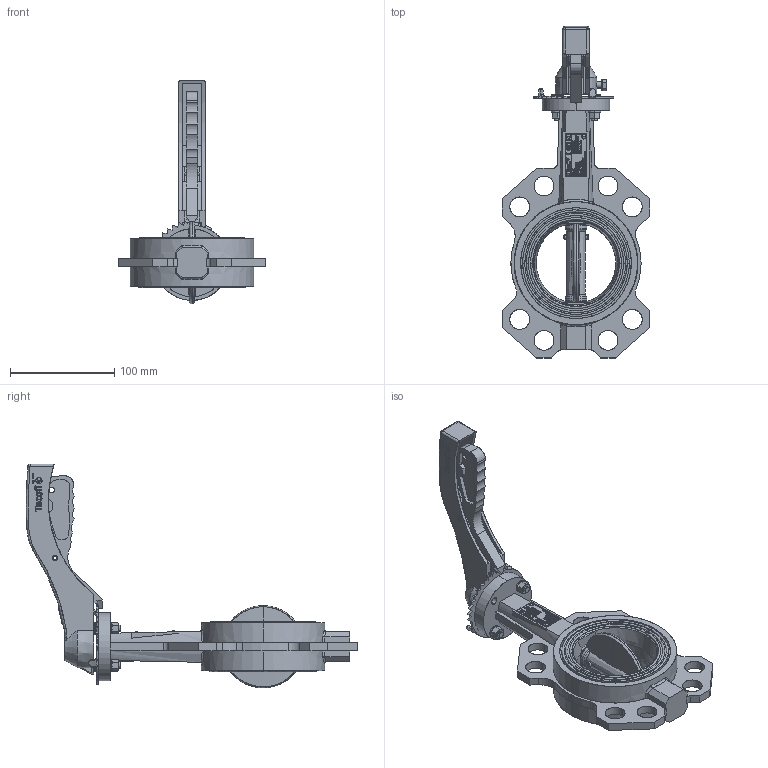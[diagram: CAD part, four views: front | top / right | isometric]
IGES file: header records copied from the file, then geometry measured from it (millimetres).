
Start section: SolidWorks IGES file using analytic representation for surfaces
Global section: file name: H:\BE BIBLIOTHEQUE 3D\BE SECTION 01 - ROBINETS A PAPILLON_VANNES PASSAGE DIRECTE\VP - Vanne Papillon\VPG\WAFER\DN80\VPG444X-02XX0080-Défaut.igs; native system: SolidWorks 2020; preprocessor: SolidWorks 2020; author: k.gigout; date: 220519.182104; units: millimetre
Bounding box: 141.15 x 317.74 x 214.4 mm (x, y, z)
Surface area: 153285.9 mm2 (no closed solid volume)
Topology: 0 solids, 0 shells, 725 faces, 19202 edges, 19193 vertices
Faces by surface type: bspline 514, revolution 211
